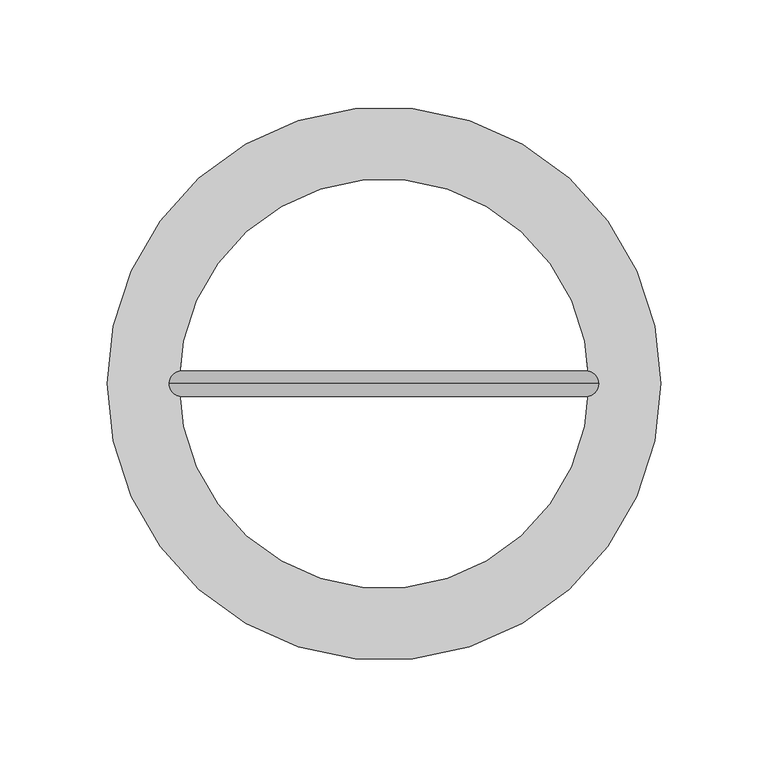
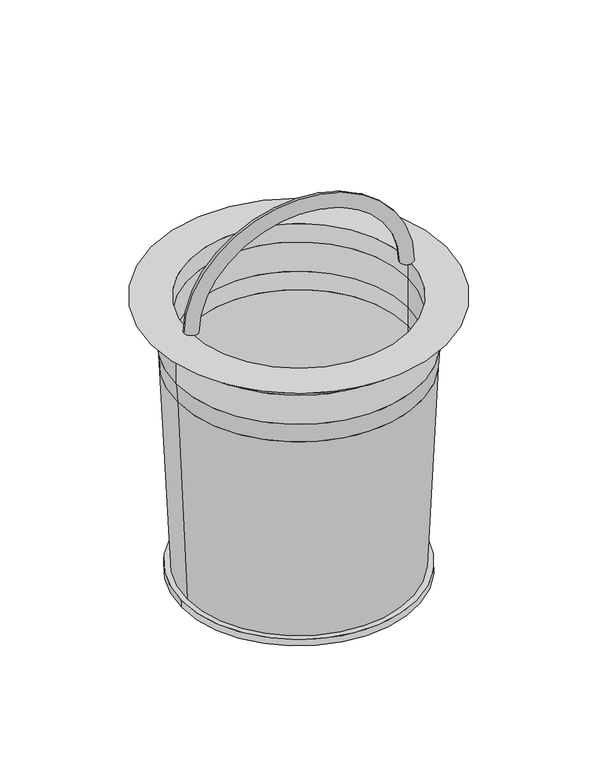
"""IFC4 building model written with IfcOpenShell, lengths in millimetres: valve geometry, Pipelife - Studnia PRO - Kosz osadnikowy : OC H250."""

from ifc_helpers import new_model, si_unit, point, frame, origin, origin_with_axes, origin_2d, place, context, project, spatial, polyline, circle_curve, trimmed, segment, composite_curve, outline, extrude, source, transform, mapped, element, save
from ifc_brep_helpers import plane_surface, revolved_surface, spline_curve, spline_surface, advanced_brep


def valve_25467aee(model_context):
    return source(origin(), model_context, "Body", "SolidModel", [
        advanced_brep(
        [(129.0, 0.0, 252.0), (-129.0, 0.0, 252.0), (95.5, 0.0, 252.0), (-95.5, 0.0, 252.0), (107.0, 0.0, 235.0), (-107.0, 0.0, 235.0), (-95.5, 0.0, 235.0), (95.5, 0.0, 235.0)],
        [
            (0, 1, circle_curve(frame((0.0, 0.0, 252.0), z_axis=(0.0, 0.0, 1.0), x_axis=(1.0, 0.0, 0.0)), 129.0)),
            (1, 0, circle_curve(frame((0.0, 0.0, 252.0), z_axis=(0.0, 0.0, 1.0), x_axis=(-1.0, 0.0, 0.0)), 129.0)),
            (2, 3, circle_curve(frame((0.0, 0.0, 252.0), z_axis=(0.0, 0.0, -1.0), x_axis=(-1.0, 0.0, 0.0)), 95.5)),
            (3, 2, circle_curve(frame((0.0, 0.0, 252.0), z_axis=(0.0, 0.0, -1.0), x_axis=(-1.0, 0.0, 0.0)), 95.5)),
            (4, 5, circle_curve(frame((0.0, 0.0, 235.0), z_axis=(0.0, 0.0, -1.0), x_axis=(-1.0, 0.0, 0.0)), 107.0)),
            (5, 4, circle_curve(frame((0.0, 0.0, 235.0), z_axis=(0.0, 0.0, -1.0), x_axis=(1.0, 0.0, 0.0)), 107.0)),
            (6, 7, circle_curve(frame((0.0, 0.0, 235.0), z_axis=(0.0, 0.0, 1.0), x_axis=(-1.0, 0.0, 0.0)), 95.5)),
            (7, 6, circle_curve(frame((0.0, 0.0, 235.0), z_axis=(0.0, 0.0, 1.0), x_axis=(-1.0, 0.0, 0.0)), 95.5)),
            (0, 4),
            (5, 1),
            (2, 7),
            (6, 3),
        ],
        [
            plane_surface(frame((0.0, 0.0, 252.0), z_axis=(0.0, 0.0, 1.0), x_axis=(0.0, 1.0, 0.0))),
            plane_surface(frame((0.0, 0.0, 235.0), z_axis=(0.0, 0.0, -1.0), x_axis=(0.0, 1.0, 0.0))),
            revolved_surface(polyline([(-107.00000000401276, 0.0, 235.0), (-129.0, 0.0, 252.0)]), (0.0, 0.0, 152.3181818), (0.0, 0.0, 1.0)),
            revolved_surface(polyline([(107.00000000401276, 0.0, 235.0), (129.0, 0.0, 252.0)]), (0.0, 0.0, 152.3181818), (0.0, 0.0, 1.0)),
            revolved_surface(polyline([(-95.5, 0.0, 235.0), (-95.5, 0.0, 252.0)]), (0.0, 0.0, 0.0), (0.0, 0.0, -1.0)),
        ],
        [
            (0, [[1, 2], [3, 4]]),
            (1, [[5, 6], [7, 8]]),
            (2, [[-1, 9, -6, 10]]),
            (3, [[-2, -10, -5, -9]]),
            (4, [[11, -7, 12, -3]]),
            (4, [[-11, -4, -12, -8]]),
        ],
    ),
        extrude(outline(composite_curve([segment(trimmed(circle_curve(origin_2d(), 107.0), [point((107.0, 0.0))], [point((-107.0, 0.0))], False, "CARTESIAN"), True, "CONTINUOUS"), segment(trimmed(circle_curve(origin_2d(), 107.0), [point((-107.0, 0.0))], [point((107.0, 0.0))], False, "CARTESIAN"), True, "CONTINUOUS")], self_intersect=False), holes=[composite_curve([segment(trimmed(circle_curve(origin_2d(), 95.5), [point((-95.5, 0.0))], [point((95.5, 0.0))], True, "CARTESIAN"), True, "CONTINUOUS"), segment(trimmed(circle_curve(origin_2d(), 95.5), [point((95.5, 0.0))], [point((-95.5, 0.0))], True, "CARTESIAN"), True, "CONTINUOUS")], self_intersect=False)]), frame((0.0, 0.0, 208.0), z_axis=(0.0, 0.0, 1.0), x_axis=(1.0, 0.0, 0.0)), (0.0, 0.0, 1.0), 27.0),
        advanced_brep(
        [(107.0, 0.0, 208.0), (-107.0, 0.0, 208.0), (95.5, 0.0, 208.0), (-95.5, 0.0, 208.0), (106.0, 0.0, 191.0), (-106.0, 0.0, 191.0), (-95.5, 0.0, 191.0), (95.5, 0.0, 191.0)],
        [
            (0, 1, circle_curve(frame((0.0, 0.0, 208.0), z_axis=(0.0, 0.0, 1.0), x_axis=(1.0, 0.0, 0.0)), 107.0)),
            (1, 0, circle_curve(frame((0.0, 0.0, 208.0), z_axis=(0.0, 0.0, 1.0), x_axis=(-1.0, 0.0, 0.0)), 107.0)),
            (2, 3, circle_curve(frame((0.0, 0.0, 208.0), z_axis=(0.0, 0.0, -1.0), x_axis=(-1.0, 0.0, 0.0)), 95.5)),
            (3, 2, circle_curve(frame((0.0, 0.0, 208.0), z_axis=(0.0, 0.0, -1.0), x_axis=(-1.0, 0.0, 0.0)), 95.5)),
            (4, 5, circle_curve(frame((0.0, 0.0, 191.0), z_axis=(0.0, 0.0, -1.0), x_axis=(-1.0, 0.0, 0.0)), 106.0)),
            (5, 4, circle_curve(frame((0.0, 0.0, 191.0), z_axis=(0.0, 0.0, -1.0), x_axis=(1.0, 0.0, 0.0)), 106.0)),
            (6, 7, circle_curve(frame((0.0, 0.0, 191.0), z_axis=(0.0, 0.0, 1.0), x_axis=(-1.0, 0.0, 0.0)), 95.5)),
            (7, 6, circle_curve(frame((0.0, 0.0, 191.0), z_axis=(0.0, 0.0, 1.0), x_axis=(-1.0, 0.0, 0.0)), 95.5)),
            (0, 4),
            (5, 1),
            (2, 7),
            (6, 3),
        ],
        [
            plane_surface(frame((0.0, 0.0, 208.0), z_axis=(0.0, 0.0, 1.0), x_axis=(0.0, 1.0, 0.0))),
            plane_surface(frame((0.0, 0.0, 191.0), z_axis=(0.0, 0.0, -1.0), x_axis=(0.0, 1.0, 0.0))),
            revolved_surface(polyline([(-106.0, 0.0, 191.0), (-107.0, 0.0, 208.0)]), (0.0, 0.0, -1611.0), (0.0, 0.0, 1.0)),
            revolved_surface(polyline([(106.0, 0.0, 191.0), (107.0, 0.0, 208.0)]), (0.0, 0.0, -1611.0), (0.0, 0.0, 1.0)),
            revolved_surface(polyline([(-95.5, 0.0, 191.0), (-95.5, 0.0, 208.0)]), (0.0, 0.0, 0.0), (0.0, 0.0, -1.0)),
        ],
        [
            (0, [[1, 2], [3, 4]]),
            (1, [[5, 6], [7, 8]]),
            (2, [[-1, 9, -6, 10]]),
            (3, [[-2, -10, -5, -9]]),
            (4, [[11, -7, 12, -3]]),
            (4, [[-11, -4, -12, -8]]),
        ],
    ),
        advanced_brep(
        [(106.0, 0.0, 191.0), (-106.0, 0.0, 191.0), (95.5, 0.0, 191.0), (-95.5, 0.0, 191.0), (97.5, 0.0, 6.0), (-97.5, 0.0, 6.0), (-95.5, 0.0, 6.0), (95.5, 0.0, 6.0)],
        [
            (0, 1, circle_curve(frame((0.0, 0.0, 191.0), z_axis=(0.0, 0.0, 1.0), x_axis=(1.0, 0.0, 0.0)), 106.0)),
            (1, 0, circle_curve(frame((0.0, 0.0, 191.0), z_axis=(0.0, 0.0, 1.0), x_axis=(-1.0, 0.0, 0.0)), 106.0)),
            (2, 3, circle_curve(frame((0.0, 0.0, 191.0), z_axis=(0.0, 0.0, -1.0), x_axis=(-1.0, 0.0, 0.0)), 95.5)),
            (3, 2, circle_curve(frame((0.0, 0.0, 191.0), z_axis=(0.0, 0.0, -1.0), x_axis=(-1.0, 0.0, 0.0)), 95.5)),
            (4, 5, circle_curve(frame((0.0, 0.0, 6.0), z_axis=(0.0, 0.0, -1.0), x_axis=(-1.0, 0.0, 0.0)), 97.5)),
            (5, 4, circle_curve(frame((0.0, 0.0, 6.0), z_axis=(0.0, 0.0, -1.0), x_axis=(1.0, 0.0, 0.0)), 97.5)),
            (6, 7, circle_curve(frame((0.0, 0.0, 6.0), z_axis=(0.0, 0.0, 1.0), x_axis=(-1.0, 0.0, 0.0)), 95.5)),
            (7, 6, circle_curve(frame((0.0, 0.0, 6.0), z_axis=(0.0, 0.0, 1.0), x_axis=(-1.0, 0.0, 0.0)), 95.5)),
            (0, 4),
            (5, 1),
            (2, 7),
            (6, 3),
        ],
        [
            plane_surface(frame((0.0, 0.0, 191.0), z_axis=(0.0, 0.0, 1.0), x_axis=(0.0, 1.0, 0.0))),
            plane_surface(frame((0.0, 0.0, 6.0), z_axis=(0.0, 0.0, -1.0), x_axis=(0.0, 1.0, 0.0))),
            revolved_surface(polyline([(-97.49999999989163, 0.0, 6.0), (-106.0, 0.0, 191.0)]), (0.0, 0.0, -2116.0588235), (0.0, 0.0, 1.0)),
            revolved_surface(polyline([(97.49999999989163, 0.0, 6.0), (106.0, 0.0, 191.0)]), (0.0, 0.0, -2116.0588235), (0.0, 0.0, 1.0)),
            revolved_surface(polyline([(-95.5, 0.0, 6.0), (-95.5, 0.0, 191.0)]), (0.0, 0.0, 0.0), (0.0, 0.0, -1.0)),
        ],
        [
            (0, [[1, 2], [3, 4]]),
            (1, [[5, 6], [7, 8]]),
            (2, [[-1, 9, -6, 10]]),
            (3, [[-2, -10, -5, -9]]),
            (4, [[11, -7, 12, -3]]),
            (4, [[-11, -4, -12, -8]]),
        ],
    ),
        extrude(outline(composite_curve([segment(trimmed(circle_curve(origin_2d(), 102.5), [point((102.5, 0.0))], [point((-102.5, 0.0))], False, "CARTESIAN"), True, "CONTINUOUS"), segment(trimmed(circle_curve(origin_2d(), 102.5), [point((-102.5, 0.0))], [point((102.5, 0.0))], False, "CARTESIAN"), True, "CONTINUOUS")], self_intersect=False), holes=[composite_curve([segment(trimmed(circle_curve(origin_2d(), 95.5), [point((-95.5, 0.0))], [point((95.5, 0.0))], True, "CARTESIAN"), True, "CONTINUOUS"), segment(trimmed(circle_curve(origin_2d(), 95.5), [point((95.5, 0.0))], [point((-95.5, 0.0))], True, "CARTESIAN"), True, "CONTINUOUS")], self_intersect=False)]), origin_with_axes(), (0.0, 0.0, 1.0), 6.0),
        advanced_brep(
        [(-88.25, 0.0, 252.0), (-100.25, 0.0, 252.0), (88.25, 0.0, 252.0), (100.25, 0.0, 252.0)],
        [
            (0, 1, spline_curve(3, [(-88.25, 0.0, 252.0), (-88.25, -0.785398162, 252.0), (-88.406204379, -1.570613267, 252.0), (-89.007241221, -3.021587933, 252.0), (-89.452073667, -3.687347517, 252.0), (-90.562644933, -4.797933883, 252.0), (-91.228383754, -5.242760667, 252.0), (-92.679415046, -5.843793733, 252.0), (-93.464707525, -6.0, 252.0), (-95.035292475, -6.0, 252.0), (-95.820584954, -5.843793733, 252.0), (-97.271616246, -5.242760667, 252.0), (-97.937355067, -4.797933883, 252.0), (-99.047926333, -3.687347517, 252.0), (-99.492758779, -3.021587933, 252.0), (-100.093795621, -1.570613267, 252.0), (-100.25, -0.785398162, 252.0), (-100.25, 0.0, 252.0)], [4, 2, 2, 2, 2, 2, 2, 2, 4], [0.0, 0.125, 0.25, 0.375, 0.5, 0.625, 0.75, 0.875, 1.0])),
            (1, 0, spline_curve(3, [(-100.25, 0.0, 252.0), (-100.25, 0.785398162, 252.0), (-100.093795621, 1.570613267, 252.0), (-99.492758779, 3.021587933, 252.0), (-99.047926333, 3.687347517, 252.0), (-97.937355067, 4.797933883, 252.0), (-97.271616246, 5.242760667, 252.0), (-95.820584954, 5.843793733, 252.0), (-95.035292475, 6.0, 252.0), (-93.464707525, 6.0, 252.0), (-92.679415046, 5.843793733, 252.0), (-91.228383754, 5.242760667, 252.0), (-90.562644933, 4.797933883, 252.0), (-89.452073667, 3.687347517, 252.0), (-89.007241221, 3.021587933, 252.0), (-88.406204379, 1.570613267, 252.0), (-88.25, 0.785398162, 252.0), (-88.25, 0.0, 252.0)], [4, 2, 2, 2, 2, 2, 2, 2, 4], [0.0, 0.125, 0.25, 0.375, 0.5, 0.625, 0.75, 0.875, 1.0])),
            (2, 3, spline_curve(3, [(88.25, 0.0, 252.0), (88.25, 0.785398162, 252.0), (88.406204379, 1.570613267, 252.0), (89.007241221, 3.021587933, 252.0), (89.452073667, 3.687347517, 252.0), (90.562644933, 4.797933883, 252.0), (91.228383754, 5.242760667, 252.0), (92.679415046, 5.843793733, 252.0), (93.464707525, 6.0, 252.0), (95.035292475, 6.0, 252.0), (95.820584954, 5.843793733, 252.0), (97.271616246, 5.242760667, 252.0), (97.937355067, 4.797933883, 252.0), (99.047926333, 3.687347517, 252.0), (99.492758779, 3.021587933, 252.0), (100.093795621, 1.570613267, 252.0), (100.25, 0.785398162, 252.0), (100.25, 0.0, 252.0)], [4, 2, 2, 2, 2, 2, 2, 2, 4], [0.0, 0.125, 0.25, 0.375, 0.5, 0.625, 0.75, 0.875, 1.0])),
            (3, 2, spline_curve(3, [(100.25, 0.0, 252.0), (100.25, -0.785398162, 252.0), (100.093795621, -1.570613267, 252.0), (99.492758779, -3.021587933, 252.0), (99.047926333, -3.687347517, 252.0), (97.937355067, -4.797933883, 252.0), (97.271616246, -5.242760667, 252.0), (95.820584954, -5.843793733, 252.0), (95.035292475, -6.0, 252.0), (93.464707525, -6.0, 252.0), (92.679415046, -5.843793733, 252.0), (91.228383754, -5.242760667, 252.0), (90.562644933, -4.797933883, 252.0), (89.452073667, -3.687347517, 252.0), (89.007241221, -3.021587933, 252.0), (88.406204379, -1.570613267, 252.0), (88.25, -0.785398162, 252.0), (88.25, 0.0, 252.0)], [4, 2, 2, 2, 2, 2, 2, 2, 4], [0.0, 0.125, 0.25, 0.375, 0.5, 0.625, 0.75, 0.875, 1.0])),
            (0, 2, spline_curve(3, [(-88.25, 0.0, 252.0), (-88.25, 0.0, 261.972821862), (-86.00440185, 0.0, 271.94682049), (-77.28809835, 0.0, 290.47112091), (-70.817393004, 0.0, 299.021422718), (-54.541469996, 0.0, 313.352584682), (-44.736252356, 0.0, 319.133444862), (-23.287356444, 0.0, 326.957152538), (-11.643678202, 0.0, 329.0), (11.643678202, 0.0, 329.0), (23.287356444, 0.0, 326.957152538), (44.736252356, 0.0, 319.133444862), (54.541469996, 0.0, 313.352584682), (70.817393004, 0.0, 299.021422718), (77.28809835, 0.0, 290.47112091), (86.00440185, 0.0, 271.94682049), (88.25, 0.0, 261.972821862), (88.25, 0.0, 252.0)], [4, 2, 2, 2, 2, 2, 2, 2, 4], [0.0, 0.39269908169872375, 0.7853981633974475, 1.1780972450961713, 1.570796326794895, 1.963495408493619, 2.3561944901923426, 2.7488935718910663, 3.14159265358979])),
            (3, 1, spline_curve(3, [(100.25, 0.0, 252.0), (100.25, 0.0, 263.756527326), (97.588177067, 0.0, 275.506813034), (87.421906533, 0.0, 297.126145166), (79.917458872, 0.0, 306.99519158), (61.302934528, 0.0, 323.39025242), (50.192857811, 0.0, 329.916266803), (26.055187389, 0.0, 338.721140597), (13.027593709, 0.0, 341.0), (-13.027593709, 0.0, 341.0), (-26.055187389, 0.0, 338.721140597), (-50.192857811, 0.0, 329.916266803), (-61.302934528, 0.0, 323.39025242), (-79.917458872, 0.0, 306.99519158), (-87.421906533, 0.0, 297.126145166), (-97.588177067, 0.0, 275.506813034), (-100.25, 0.0, 263.756527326), (-100.25, 0.0, 252.0)], [4, 2, 2, 2, 2, 2, 2, 2, 4], [0.0, 0.3926990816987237, 0.7853981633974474, 1.178097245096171, 1.570796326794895, 1.9634954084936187, 2.3561944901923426, 2.7488935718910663, 3.14159265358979])),
        ],
        [
            plane_surface(frame((-94.25, 0.0, 252.0), z_axis=(0.0, 0.0, -1.0), x_axis=(0.0, -1.0, 0.0))),
            plane_surface(frame((94.25, 0.0, 252.0), z_axis=(0.0, 0.0, -1.0), x_axis=(0.0, -1.0, 0.0))),
            spline_surface(3, 3, [[(-88.25, 0.0, 252.0), (-88.25, -0.785398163, 252.0), (-88.40620438, -1.570613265, 252.0), (-89.00724122, -3.021587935, 252.0), (-89.452073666, -3.687347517, 252.0), (-90.562644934, -4.797933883, 252.0), (-91.228383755, -5.242760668, 252.0), (-92.679415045, -5.843793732, 252.0), (-93.464707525, -6.0, 252.0), (-95.035292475, -6.0, 252.0), (-95.820584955, -5.843793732, 252.0), (-97.271616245, -5.242760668, 252.0), (-97.937355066, -4.797933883, 252.0), (-99.047926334, -3.687347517, 252.0), (-99.49275878, -3.021587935, 252.0), (-100.09379562, -1.570613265, 252.0), (-100.25, -0.785398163, 252.0), (-100.25, 0.0, 252.0)], [(-88.25, 0.0, 261.97282186), (-88.25, -0.785398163, 261.97282186), (-88.40620438, -1.570613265, 261.996034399), (-89.00724122, -3.021587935, 262.085385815), (-89.452073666, -3.687347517, 262.151489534), (-90.562644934, -4.797933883, 262.316589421), (-91.228383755, -5.242760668, 262.415520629), (-92.679415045, -5.843793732, 262.631234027), (-93.464707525, -6.0, 262.747931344), (-95.035292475, -6.0, 262.981417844), (-95.820584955, -5.843793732, 263.09811516), (-97.271616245, -5.242760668, 263.313828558), (-97.937355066, -4.797933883, 263.412759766), (-99.047926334, -3.687347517, 263.577859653), (-99.49275878, -3.021587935, 263.643963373), (-100.09379562, -1.570613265, 263.733314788), (-100.25, -0.785398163, 263.756527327), (-100.25, 0.0, 263.756527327)], [(-86.004401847, 0.0, 271.946820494), (-86.004401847, -0.785398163, 271.946820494), (-86.155102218, -1.570613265, 271.993189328), (-86.73546376, -3.021587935, 272.17144003), (-87.164622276, -3.687347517, 272.303487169), (-88.236990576, -4.797933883, 272.632851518), (-88.879271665, -5.242760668, 272.830474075), (-90.28038837, -5.843793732, 273.260809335), (-91.038010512, -6.0, 273.493921), (-92.554568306, -6.0, 273.959712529), (-93.312190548, -5.843793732, 274.192824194), (-94.713307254, -5.242760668, 274.623159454), (-95.355588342, -4.797933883, 274.820782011), (-96.427956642, -3.687347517, 275.15014636), (-96.857115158, -3.021587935, 275.282193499), (-97.4374767, -1.570613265, 275.460444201), (-97.588177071, -0.785398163, 275.506813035), (-97.588177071, 0.0, 275.506813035)], [(-77.288098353, 0.0, 290.471120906), (-77.288098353, -0.785398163, 290.471120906), (-77.420096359, -1.570613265, 290.557721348), (-77.927490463, -3.021587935, 290.891104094), (-78.303389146, -3.687347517, 291.137721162), (-79.240931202, -4.797933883, 291.753732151), (-79.803503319, -5.242760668, 292.122820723), (-81.028461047, -5.843793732, 292.927677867), (-81.692060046, -6.0, 293.363047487), (-83.017944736, -6.0, 294.234218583), (-83.681543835, -5.843793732, 294.669588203), (-84.906501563, -5.242760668, 295.474445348), (-85.46907368, -4.797933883, 295.84353392), (-86.406615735, -3.687347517, 296.459544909), (-86.782514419, -3.021587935, 296.706161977), (-87.289908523, -1.570613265, 297.039544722), (-87.421906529, -0.785398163, 297.126145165), (-87.421906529, 0.0, 297.126145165)], [(-70.817393, 0.0, 299.021422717), (-70.817393, -0.785398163, 299.021422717), (-70.935842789, -1.570613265, 299.125167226), (-71.391644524, -3.021587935, 299.524645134), (-71.728960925, -3.687347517, 299.820084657), (-72.571172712, -4.797933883, 300.558223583), (-73.076002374, -5.242760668, 301.000379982), (-74.176405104, -5.843793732, 301.964804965), (-74.771892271, -6.0, 302.486364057), (-75.962959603, -6.0, 303.530250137), (-76.558446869, -5.843793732, 304.051809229), (-77.658849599, -5.242760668, 305.016234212), (-78.163679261, -4.797933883, 305.458390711), (-79.005891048, -3.687347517, 306.196529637), (-79.343207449, -3.021587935, 306.49196916), (-79.799009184, -1.570613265, 306.891447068), (-79.917458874, -0.785398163, 306.995191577), (-79.917458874, 0.0, 306.995191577)], [(-54.54147, 0.0, 313.352584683), (-54.54147, -0.785398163, 313.352584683), (-54.629490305, -1.570613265, 313.483295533), (-54.968135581, -3.021587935, 313.985945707), (-55.218796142, -3.687347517, 314.358178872), (-55.844531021, -4.797933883, 315.286955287), (-56.219671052, -5.242760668, 315.844041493), (-57.03723307, -5.843793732, 317.05754636), (-57.479740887, -6.0, 317.714674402), (-58.364663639, -6.0, 319.028162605), (-58.807171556, -5.843793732, 319.685290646), (-59.624733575, -5.242760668, 320.898795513), (-59.999873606, -4.797933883, 321.455881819), (-60.625608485, -3.687347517, 322.384658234), (-60.876269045, -3.021587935, 322.756891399), (-61.214914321, -1.570613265, 323.259541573), (-61.302934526, -0.785398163, 323.390252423), (-61.302934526, 0.0, 323.390252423)], [(-44.736252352, 0.0, 319.133444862), (-44.736252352, -0.785398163, 319.133444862), (-44.807293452, -1.570613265, 319.273795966), (-45.080570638, -3.021587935, 319.813887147), (-45.28287851, -3.687347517, 320.21357335), (-45.787828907, -4.797933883, 321.211531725), (-46.090604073, -5.242760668, 321.809704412), (-46.750353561, -5.843793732, 323.113599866), (-47.107501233, -6.0, 323.8191927), (-47.821608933, -6.0, 325.23051897), (-48.178756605, -5.843793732, 325.936111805), (-48.838506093, -5.242760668, 327.240007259), (-49.141281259, -4.797933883, 327.838179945), (-49.646231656, -3.687347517, 328.836138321), (-49.848539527, -3.021587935, 329.235824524), (-50.121816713, -1.570613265, 329.775915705), (-50.192857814, -0.785398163, 329.916266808), (-50.192857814, 0.0, 329.916266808)], [(-23.287356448, 0.0, 326.957152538), (-23.287356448, -0.785398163, 326.957152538), (-23.323373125, -1.570613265, 327.110293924), (-23.462028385, -3.021587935, 327.699491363), (-23.564595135, -3.687347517, 328.135601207), (-23.820796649, -4.797933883, 329.224296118), (-23.974298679, -5.242760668, 329.876980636), (-24.309042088, -5.843793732, 331.299429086), (-24.49011009, -6.0, 332.069323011), (-24.852433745, -6.0, 333.608970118), (-25.033501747, -5.843793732, 334.378864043), (-25.368245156, -5.242760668, 335.801312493), (-25.521747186, -4.797933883, 336.453997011), (-25.777948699, -3.687347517, 337.542691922), (-25.88051545, -3.021587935, 337.978801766), (-26.01917071, -1.570613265, 338.567999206), (-26.055187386, -0.785398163, 338.721140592), (-26.055187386, 0.0, 338.721140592)], [(-11.643678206, 0.0, 329.0), (-11.643678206, -0.785398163, 329.0), (-11.661703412, -1.570613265, 329.15620438), (-11.730997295, -3.021587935, 329.75724122), (-11.782328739, -3.687347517, 330.202073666), (-11.91036714, -4.797933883, 331.312644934), (-11.987190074, -5.242760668, 331.978383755), (-12.154480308, -5.843793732, 333.429415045), (-12.245099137, -6.0, 334.214707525), (-12.426172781, -6.0, 335.785292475), (-12.51679161, -5.843793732, 336.570584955), (-12.684081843, -5.242760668, 338.021616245), (-12.760904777, -4.797933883, 338.687355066), (-12.888943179, -3.687347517, 339.797926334), (-12.940274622, -3.021587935, 340.24275878), (-13.009568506, -1.570613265, 340.84379562), (-13.027593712, -0.785398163, 341.0), (-13.027593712, 0.0, 341.0)], [(11.643678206, 0.0, 329.0), (11.643678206, -0.785398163, 329.0), (11.661703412, -1.570613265, 329.15620438), (11.730997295, -3.021587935, 329.75724122), (11.782328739, -3.687347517, 330.202073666), (11.91036714, -4.797933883, 331.312644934), (11.987190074, -5.242760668, 331.978383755), (12.154480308, -5.843793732, 333.429415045), (12.245099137, -6.0, 334.214707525), (12.426172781, -6.0, 335.785292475), (12.51679161, -5.843793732, 336.570584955), (12.684081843, -5.242760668, 338.021616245), (12.760904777, -4.797933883, 338.687355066), (12.888943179, -3.687347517, 339.797926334), (12.940274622, -3.021587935, 340.24275878), (13.009568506, -1.570613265, 340.84379562), (13.027593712, -0.785398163, 341.0), (13.027593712, 0.0, 341.0)], [(23.287356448, 0.0, 326.957152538), (23.287356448, -0.785398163, 326.957152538), (23.323373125, -1.570613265, 327.110293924), (23.462028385, -3.021587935, 327.699491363), (23.564595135, -3.687347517, 328.135601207), (23.820796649, -4.797933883, 329.224296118), (23.974298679, -5.242760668, 329.876980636), (24.309042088, -5.843793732, 331.299429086), (24.49011009, -6.0, 332.069323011), (24.852433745, -6.0, 333.608970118), (25.033501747, -5.843793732, 334.378864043), (25.368245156, -5.242760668, 335.801312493), (25.521747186, -4.797933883, 336.453997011), (25.777948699, -3.687347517, 337.542691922), (25.88051545, -3.021587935, 337.978801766), (26.01917071, -1.570613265, 338.567999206), (26.055187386, -0.785398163, 338.721140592), (26.055187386, 0.0, 338.721140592)], [(44.736252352, 0.0, 319.133444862), (44.736252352, -0.785398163, 319.133444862), (44.807293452, -1.570613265, 319.273795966), (45.080570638, -3.021587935, 319.813887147), (45.28287851, -3.687347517, 320.21357335), (45.787828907, -4.797933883, 321.211531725), (46.090604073, -5.242760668, 321.809704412), (46.750353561, -5.843793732, 323.113599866), (47.107501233, -6.0, 323.8191927), (47.821608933, -6.0, 325.23051897), (48.178756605, -5.843793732, 325.936111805), (48.838506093, -5.242760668, 327.240007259), (49.141281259, -4.797933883, 327.838179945), (49.646231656, -3.687347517, 328.836138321), (49.848539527, -3.021587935, 329.235824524), (50.121816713, -1.570613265, 329.775915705), (50.192857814, -0.785398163, 329.916266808), (50.192857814, 0.0, 329.916266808)], [(54.54147, 0.0, 313.352584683), (54.54147, -0.785398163, 313.352584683), (54.629490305, -1.570613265, 313.483295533), (54.968135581, -3.021587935, 313.985945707), (55.218796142, -3.687347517, 314.358178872), (55.844531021, -4.797933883, 315.286955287), (56.219671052, -5.242760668, 315.844041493), (57.03723307, -5.843793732, 317.05754636), (57.479740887, -6.0, 317.714674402), (58.364663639, -6.0, 319.028162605), (58.807171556, -5.843793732, 319.685290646), (59.624733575, -5.242760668, 320.898795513), (59.999873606, -4.797933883, 321.455881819), (60.625608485, -3.687347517, 322.384658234), (60.876269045, -3.021587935, 322.756891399), (61.214914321, -1.570613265, 323.259541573), (61.302934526, -0.785398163, 323.390252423), (61.302934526, 0.0, 323.390252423)], [(70.817393, 0.0, 299.021422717), (70.817393, -0.785398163, 299.021422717), (70.935842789, -1.570613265, 299.125167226), (71.391644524, -3.021587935, 299.524645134), (71.728960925, -3.687347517, 299.820084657), (72.571172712, -4.797933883, 300.558223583), (73.076002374, -5.242760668, 301.000379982), (74.176405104, -5.843793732, 301.964804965), (74.771892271, -6.0, 302.486364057), (75.962959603, -6.0, 303.530250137), (76.558446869, -5.843793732, 304.051809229), (77.658849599, -5.242760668, 305.016234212), (78.163679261, -4.797933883, 305.458390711), (79.005891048, -3.687347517, 306.196529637), (79.343207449, -3.021587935, 306.49196916), (79.799009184, -1.570613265, 306.891447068), (79.917458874, -0.785398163, 306.995191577), (79.917458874, 0.0, 306.995191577)], [(77.288098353, 0.0, 290.471120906), (77.288098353, -0.785398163, 290.471120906), (77.420096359, -1.570613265, 290.557721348), (77.927490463, -3.021587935, 290.891104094), (78.303389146, -3.687347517, 291.137721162), (79.240931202, -4.797933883, 291.753732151), (79.803503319, -5.242760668, 292.122820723), (81.028461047, -5.843793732, 292.927677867), (81.692060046, -6.0, 293.363047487), (83.017944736, -6.0, 294.234218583), (83.681543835, -5.843793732, 294.669588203), (84.906501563, -5.242760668, 295.474445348), (85.46907368, -4.797933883, 295.84353392), (86.406615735, -3.687347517, 296.459544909), (86.782514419, -3.021587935, 296.706161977), (87.289908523, -1.570613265, 297.039544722), (87.421906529, -0.785398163, 297.126145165), (87.421906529, 0.0, 297.126145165)], [(86.004401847, 0.0, 271.946820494), (86.004401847, -0.785398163, 271.946820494), (86.155102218, -1.570613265, 271.993189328), (86.73546376, -3.021587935, 272.17144003), (87.164622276, -3.687347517, 272.303487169), (88.236990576, -4.797933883, 272.632851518), (88.879271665, -5.242760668, 272.830474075), (90.28038837, -5.843793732, 273.260809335), (91.038010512, -6.0, 273.493921), (92.554568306, -6.0, 273.959712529), (93.312190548, -5.843793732, 274.192824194), (94.713307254, -5.242760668, 274.623159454), (95.355588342, -4.797933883, 274.820782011), (96.427956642, -3.687347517, 275.15014636), (96.857115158, -3.021587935, 275.282193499), (97.4374767, -1.570613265, 275.460444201), (97.588177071, -0.785398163, 275.506813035), (97.588177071, 0.0, 275.506813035)], [(88.25, 0.0, 261.97282186), (88.25, -0.785398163, 261.97282186), (88.40620438, -1.570613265, 261.996034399), (89.00724122, -3.021587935, 262.085385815), (89.452073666, -3.687347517, 262.151489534), (90.562644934, -4.797933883, 262.316589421), (91.228383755, -5.242760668, 262.415520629), (92.679415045, -5.843793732, 262.631234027), (93.464707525, -6.0, 262.747931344), (95.035292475, -6.0, 262.981417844), (95.820584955, -5.843793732, 263.09811516), (97.271616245, -5.242760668, 263.313828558), (97.937355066, -4.797933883, 263.412759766), (99.047926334, -3.687347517, 263.577859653), (99.49275878, -3.021587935, 263.643963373), (100.09379562, -1.570613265, 263.733314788), (100.25, -0.785398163, 263.756527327), (100.25, 0.0, 263.756527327)], [(88.25, 0.0, 252.0), (88.25, -0.785398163, 252.0), (88.40620438, -1.570613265, 252.0), (89.00724122, -3.021587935, 252.0), (89.452073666, -3.687347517, 252.0), (90.562644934, -4.797933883, 252.0), (91.228383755, -5.242760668, 252.0), (92.679415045, -5.843793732, 252.0), (93.464707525, -6.0, 252.0), (95.035292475, -6.0, 252.0), (95.820584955, -5.843793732, 252.0), (97.271616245, -5.242760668, 252.0), (97.937355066, -4.797933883, 252.0), (99.047926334, -3.687347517, 252.0), (99.49275878, -3.021587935, 252.0), (100.09379562, -1.570613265, 252.0), (100.25, -0.785398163, 252.0), (100.25, 0.0, 252.0)]], [4, 2, 2, 2, 2, 2, 2, 2, 4], [4, 2, 2, 2, 2, 2, 2, 2, 4], [0.0, 0.39269908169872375, 0.7853981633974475, 1.1780972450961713, 1.570796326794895, 1.963495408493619, 2.3561944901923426, 2.7488935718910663, 3.14159265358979], [0.0, 0.125, 0.25, 0.375, 0.5, 0.625, 0.75, 0.875, 1.0]),
            spline_surface(3, 3, [[(-100.25, 0.0, 252.0), (-100.25, 0.785398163, 252.0), (-100.09379562, 1.570613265, 252.0), (-99.49275878, 3.021587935, 252.0), (-99.047926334, 3.687347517, 252.0), (-97.937355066, 4.797933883, 252.0), (-97.271616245, 5.242760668, 252.0), (-95.820584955, 5.843793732, 252.0), (-95.035292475, 6.0, 252.0), (-93.464707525, 6.0, 252.0), (-92.679415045, 5.843793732, 252.0), (-91.228383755, 5.242760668, 252.0), (-90.562644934, 4.797933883, 252.0), (-89.452073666, 3.687347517, 252.0), (-89.00724122, 3.021587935, 252.0), (-88.40620438, 1.570613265, 252.0), (-88.25, 0.785398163, 252.0), (-88.25, 0.0, 252.0)], [(-100.25, 0.0, 263.756527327), (-100.25, 0.785398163, 263.756527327), (-100.09379562, 1.570613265, 263.733314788), (-99.49275878, 3.021587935, 263.643963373), (-99.047926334, 3.687347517, 263.577859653), (-97.937355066, 4.797933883, 263.412759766), (-97.271616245, 5.242760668, 263.313828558), (-95.820584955, 5.843793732, 263.09811516), (-95.035292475, 6.0, 262.981417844), (-93.464707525, 6.0, 262.747931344), (-92.679415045, 5.843793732, 262.631234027), (-91.228383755, 5.242760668, 262.415520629), (-90.562644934, 4.797933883, 262.316589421), (-89.452073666, 3.687347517, 262.151489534), (-89.00724122, 3.021587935, 262.085385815), (-88.40620438, 1.570613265, 261.996034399), (-88.25, 0.785398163, 261.97282186), (-88.25, 0.0, 261.97282186)], [(-97.588177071, 0.0, 275.506813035), (-97.588177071, 0.785398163, 275.506813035), (-97.4374767, 1.570613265, 275.460444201), (-96.857115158, 3.021587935, 275.282193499), (-96.427956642, 3.687347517, 275.15014636), (-95.355588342, 4.797933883, 274.820782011), (-94.713307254, 5.242760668, 274.623159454), (-93.312190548, 5.843793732, 274.192824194), (-92.554568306, 6.0, 273.959712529), (-91.038010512, 6.0, 273.493921), (-90.28038837, 5.843793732, 273.260809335), (-88.879271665, 5.242760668, 272.830474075), (-88.236990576, 4.797933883, 272.632851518), (-87.164622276, 3.687347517, 272.303487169), (-86.73546376, 3.021587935, 272.17144003), (-86.155102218, 1.570613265, 271.993189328), (-86.004401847, 0.785398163, 271.946820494), (-86.004401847, 0.0, 271.946820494)], [(-87.421906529, 0.0, 297.126145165), (-87.421906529, 0.785398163, 297.126145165), (-87.289908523, 1.570613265, 297.039544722), (-86.782514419, 3.021587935, 296.706161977), (-86.406615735, 3.687347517, 296.459544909), (-85.46907368, 4.797933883, 295.84353392), (-84.906501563, 5.242760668, 295.474445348), (-83.681543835, 5.843793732, 294.669588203), (-83.017944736, 6.0, 294.234218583), (-81.692060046, 6.0, 293.363047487), (-81.028461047, 5.843793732, 292.927677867), (-79.803503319, 5.242760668, 292.122820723), (-79.240931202, 4.797933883, 291.753732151), (-78.303389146, 3.687347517, 291.137721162), (-77.927490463, 3.021587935, 290.891104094), (-77.420096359, 1.570613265, 290.557721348), (-77.288098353, 0.785398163, 290.471120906), (-77.288098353, 0.0, 290.471120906)], [(-79.917458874, 0.0, 306.995191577), (-79.917458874, 0.785398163, 306.995191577), (-79.799009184, 1.570613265, 306.891447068), (-79.343207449, 3.021587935, 306.49196916), (-79.005891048, 3.687347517, 306.196529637), (-78.163679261, 4.797933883, 305.458390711), (-77.658849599, 5.242760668, 305.016234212), (-76.558446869, 5.843793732, 304.051809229), (-75.962959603, 6.0, 303.530250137), (-74.771892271, 6.0, 302.486364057), (-74.176405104, 5.843793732, 301.964804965), (-73.076002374, 5.242760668, 301.000379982), (-72.571172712, 4.797933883, 300.558223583), (-71.728960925, 3.687347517, 299.820084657), (-71.391644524, 3.021587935, 299.524645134), (-70.935842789, 1.570613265, 299.125167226), (-70.817393, 0.785398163, 299.021422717), (-70.817393, 0.0, 299.021422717)], [(-61.302934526, 0.0, 323.390252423), (-61.302934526, 0.785398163, 323.390252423), (-61.214914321, 1.570613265, 323.259541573), (-60.876269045, 3.021587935, 322.756891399), (-60.625608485, 3.687347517, 322.384658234), (-59.999873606, 4.797933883, 321.455881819), (-59.624733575, 5.242760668, 320.898795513), (-58.807171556, 5.843793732, 319.685290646), (-58.364663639, 6.0, 319.028162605), (-57.479740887, 6.0, 317.714674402), (-57.03723307, 5.843793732, 317.05754636), (-56.219671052, 5.242760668, 315.844041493), (-55.844531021, 4.797933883, 315.286955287), (-55.218796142, 3.687347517, 314.358178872), (-54.968135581, 3.021587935, 313.985945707), (-54.629490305, 1.570613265, 313.483295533), (-54.54147, 0.785398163, 313.352584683), (-54.54147, 0.0, 313.352584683)], [(-50.192857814, 0.0, 329.916266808), (-50.192857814, 0.785398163, 329.916266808), (-50.121816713, 1.570613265, 329.775915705), (-49.848539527, 3.021587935, 329.235824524), (-49.646231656, 3.687347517, 328.836138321), (-49.141281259, 4.797933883, 327.838179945), (-48.838506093, 5.242760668, 327.240007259), (-48.178756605, 5.843793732, 325.936111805), (-47.821608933, 6.0, 325.23051897), (-47.107501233, 6.0, 323.8191927), (-46.750353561, 5.843793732, 323.113599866), (-46.090604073, 5.242760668, 321.809704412), (-45.787828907, 4.797933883, 321.211531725), (-45.28287851, 3.687347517, 320.21357335), (-45.080570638, 3.021587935, 319.813887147), (-44.807293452, 1.570613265, 319.273795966), (-44.736252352, 0.785398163, 319.133444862), (-44.736252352, 0.0, 319.133444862)], [(-26.055187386, 0.0, 338.721140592), (-26.055187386, 0.785398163, 338.721140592), (-26.01917071, 1.570613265, 338.567999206), (-25.88051545, 3.021587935, 337.978801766), (-25.777948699, 3.687347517, 337.542691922), (-25.521747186, 4.797933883, 336.453997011), (-25.368245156, 5.242760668, 335.801312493), (-25.033501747, 5.843793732, 334.378864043), (-24.852433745, 6.0, 333.608970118), (-24.49011009, 6.0, 332.069323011), (-24.309042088, 5.843793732, 331.299429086), (-23.974298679, 5.242760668, 329.876980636), (-23.820796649, 4.797933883, 329.224296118), (-23.564595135, 3.687347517, 328.135601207), (-23.462028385, 3.021587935, 327.699491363), (-23.323373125, 1.570613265, 327.110293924), (-23.287356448, 0.785398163, 326.957152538), (-23.287356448, 0.0, 326.957152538)], [(-13.027593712, 0.0, 341.0), (-13.027593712, 0.785398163, 341.0), (-13.009568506, 1.570613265, 340.84379562), (-12.940274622, 3.021587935, 340.24275878), (-12.888943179, 3.687347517, 339.797926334), (-12.760904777, 4.797933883, 338.687355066), (-12.684081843, 5.242760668, 338.021616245), (-12.51679161, 5.843793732, 336.570584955), (-12.426172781, 6.0, 335.785292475), (-12.245099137, 6.0, 334.214707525), (-12.154480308, 5.843793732, 333.429415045), (-11.987190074, 5.242760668, 331.978383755), (-11.91036714, 4.797933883, 331.312644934), (-11.782328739, 3.687347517, 330.202073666), (-11.730997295, 3.021587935, 329.75724122), (-11.661703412, 1.570613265, 329.15620438), (-11.643678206, 0.785398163, 329.0), (-11.643678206, 0.0, 329.0)], [(13.027593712, 0.0, 341.0), (13.027593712, 0.785398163, 341.0), (13.009568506, 1.570613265, 340.84379562), (12.940274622, 3.021587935, 340.24275878), (12.888943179, 3.687347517, 339.797926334), (12.760904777, 4.797933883, 338.687355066), (12.684081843, 5.242760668, 338.021616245), (12.51679161, 5.843793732, 336.570584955), (12.426172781, 6.0, 335.785292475), (12.245099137, 6.0, 334.214707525), (12.154480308, 5.843793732, 333.429415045), (11.987190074, 5.242760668, 331.978383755), (11.91036714, 4.797933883, 331.312644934), (11.782328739, 3.687347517, 330.202073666), (11.730997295, 3.021587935, 329.75724122), (11.661703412, 1.570613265, 329.15620438), (11.643678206, 0.785398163, 329.0), (11.643678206, 0.0, 329.0)], [(26.055187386, 0.0, 338.721140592), (26.055187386, 0.785398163, 338.721140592), (26.01917071, 1.570613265, 338.567999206), (25.88051545, 3.021587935, 337.978801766), (25.777948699, 3.687347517, 337.542691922), (25.521747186, 4.797933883, 336.453997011), (25.368245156, 5.242760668, 335.801312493), (25.033501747, 5.843793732, 334.378864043), (24.852433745, 6.0, 333.608970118), (24.49011009, 6.0, 332.069323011), (24.309042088, 5.843793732, 331.299429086), (23.974298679, 5.242760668, 329.876980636), (23.820796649, 4.797933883, 329.224296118), (23.564595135, 3.687347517, 328.135601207), (23.462028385, 3.021587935, 327.699491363), (23.323373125, 1.570613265, 327.110293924), (23.287356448, 0.785398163, 326.957152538), (23.287356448, 0.0, 326.957152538)], [(50.192857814, 0.0, 329.916266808), (50.192857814, 0.785398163, 329.916266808), (50.121816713, 1.570613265, 329.775915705), (49.848539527, 3.021587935, 329.235824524), (49.646231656, 3.687347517, 328.836138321), (49.141281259, 4.797933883, 327.838179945), (48.838506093, 5.242760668, 327.240007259), (48.178756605, 5.843793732, 325.936111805), (47.821608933, 6.0, 325.23051897), (47.107501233, 6.0, 323.8191927), (46.750353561, 5.843793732, 323.113599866), (46.090604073, 5.242760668, 321.809704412), (45.787828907, 4.797933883, 321.211531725), (45.28287851, 3.687347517, 320.21357335), (45.080570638, 3.021587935, 319.813887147), (44.807293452, 1.570613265, 319.273795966), (44.736252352, 0.785398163, 319.133444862), (44.736252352, 0.0, 319.133444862)], [(61.302934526, 0.0, 323.390252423), (61.302934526, 0.785398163, 323.390252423), (61.214914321, 1.570613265, 323.259541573), (60.876269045, 3.021587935, 322.756891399), (60.625608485, 3.687347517, 322.384658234), (59.999873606, 4.797933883, 321.455881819), (59.624733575, 5.242760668, 320.898795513), (58.807171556, 5.843793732, 319.685290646), (58.364663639, 6.0, 319.028162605), (57.479740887, 6.0, 317.714674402), (57.03723307, 5.843793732, 317.05754636), (56.219671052, 5.242760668, 315.844041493), (55.844531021, 4.797933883, 315.286955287), (55.218796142, 3.687347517, 314.358178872), (54.968135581, 3.021587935, 313.985945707), (54.629490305, 1.570613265, 313.483295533), (54.54147, 0.785398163, 313.352584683), (54.54147, 0.0, 313.352584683)], [(79.917458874, 0.0, 306.995191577), (79.917458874, 0.785398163, 306.995191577), (79.799009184, 1.570613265, 306.891447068), (79.343207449, 3.021587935, 306.49196916), (79.005891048, 3.687347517, 306.196529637), (78.163679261, 4.797933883, 305.458390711), (77.658849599, 5.242760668, 305.016234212), (76.558446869, 5.843793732, 304.051809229), (75.962959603, 6.0, 303.530250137), (74.771892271, 6.0, 302.486364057), (74.176405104, 5.843793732, 301.964804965), (73.076002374, 5.242760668, 301.000379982), (72.571172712, 4.797933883, 300.558223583), (71.728960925, 3.687347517, 299.820084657), (71.391644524, 3.021587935, 299.524645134), (70.935842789, 1.570613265, 299.125167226), (70.817393, 0.785398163, 299.021422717), (70.817393, 0.0, 299.021422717)], [(87.421906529, 0.0, 297.126145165), (87.421906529, 0.785398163, 297.126145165), (87.289908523, 1.570613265, 297.039544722), (86.782514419, 3.021587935, 296.706161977), (86.406615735, 3.687347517, 296.459544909), (85.46907368, 4.797933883, 295.84353392), (84.906501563, 5.242760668, 295.474445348), (83.681543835, 5.843793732, 294.669588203), (83.017944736, 6.0, 294.234218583), (81.692060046, 6.0, 293.363047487), (81.028461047, 5.843793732, 292.927677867), (79.803503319, 5.242760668, 292.122820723), (79.240931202, 4.797933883, 291.753732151), (78.303389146, 3.687347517, 291.137721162), (77.927490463, 3.021587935, 290.891104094), (77.420096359, 1.570613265, 290.557721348), (77.288098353, 0.785398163, 290.471120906), (77.288098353, 0.0, 290.471120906)], [(97.588177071, 0.0, 275.506813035), (97.588177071, 0.785398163, 275.506813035), (97.4374767, 1.570613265, 275.460444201), (96.857115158, 3.021587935, 275.282193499), (96.427956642, 3.687347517, 275.15014636), (95.355588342, 4.797933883, 274.820782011), (94.713307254, 5.242760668, 274.623159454), (93.312190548, 5.843793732, 274.192824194), (92.554568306, 6.0, 273.959712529), (91.038010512, 6.0, 273.493921), (90.28038837, 5.843793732, 273.260809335), (88.879271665, 5.242760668, 272.830474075), (88.236990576, 4.797933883, 272.632851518), (87.164622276, 3.687347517, 272.303487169), (86.73546376, 3.021587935, 272.17144003), (86.155102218, 1.570613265, 271.993189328), (86.004401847, 0.785398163, 271.946820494), (86.004401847, 0.0, 271.946820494)], [(100.25, 0.0, 263.756527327), (100.25, 0.785398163, 263.756527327), (100.09379562, 1.570613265, 263.733314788), (99.49275878, 3.021587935, 263.643963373), (99.047926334, 3.687347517, 263.577859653), (97.937355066, 4.797933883, 263.412759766), (97.271616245, 5.242760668, 263.313828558), (95.820584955, 5.843793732, 263.09811516), (95.035292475, 6.0, 262.981417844), (93.464707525, 6.0, 262.747931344), (92.679415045, 5.843793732, 262.631234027), (91.228383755, 5.242760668, 262.415520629), (90.562644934, 4.797933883, 262.316589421), (89.452073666, 3.687347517, 262.151489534), (89.00724122, 3.021587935, 262.085385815), (88.40620438, 1.570613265, 261.996034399), (88.25, 0.785398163, 261.97282186), (88.25, 0.0, 261.97282186)], [(100.25, 0.0, 252.0), (100.25, 0.785398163, 252.0), (100.09379562, 1.570613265, 252.0), (99.49275878, 3.021587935, 252.0), (99.047926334, 3.687347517, 252.0), (97.937355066, 4.797933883, 252.0), (97.271616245, 5.242760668, 252.0), (95.820584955, 5.843793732, 252.0), (95.035292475, 6.0, 252.0), (93.464707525, 6.0, 252.0), (92.679415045, 5.843793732, 252.0), (91.228383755, 5.242760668, 252.0), (90.562644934, 4.797933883, 252.0), (89.452073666, 3.687347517, 252.0), (89.00724122, 3.021587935, 252.0), (88.40620438, 1.570613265, 252.0), (88.25, 0.785398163, 252.0), (88.25, 0.0, 252.0)]], [4, 2, 2, 2, 2, 2, 2, 2, 4], [4, 2, 2, 2, 2, 2, 2, 2, 4], [0.0, 0.39269908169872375, 0.7853981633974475, 1.1780972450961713, 1.570796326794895, 1.963495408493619, 2.3561944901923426, 2.7488935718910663, 3.14159265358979], [0.0, 0.125, 0.25, 0.375, 0.5, 0.625, 0.75, 0.875, 1.0]),
        ],
        [
            (0, [[1, 2]]),
            (1, [[3, 4]]),
            (2, [[-1, 5, -4, 6]]),
            (3, [[-2, -6, -3, -5]]),
        ],
    ),
    ])


if __name__ == "__main__":
    model = new_model("IFC4")
    model_context = context("Model", 3, world=origin())
    ifc_project = project(units=[si_unit("LENGTHUNIT", "METRE", prefix="MILLI")], contexts=[model_context])
    site = spatial("IfcSite", under=ifc_project)
    building = spatial("IfcBuilding", under=site)
    placement = place(None, origin())
    valve_shape = valve_25467aee(model_context)
    element("IfcValve", 1, ObjectType="Pipelife - Studnia PRO - Kosz osadnikowy : OC H250", at=placement, inside=building, context=model_context, shape_type="MappedRepresentation", body=[
        mapped(valve_shape, transform((0.0, 0.0, 0.0), x_axis=(1.0, 0.0, 0.0), y_axis=(0.0, 1.0, 0.0), z_axis=(0.0, 0.0, 1.0))),
    ])
    save(model, "model.ifc")
